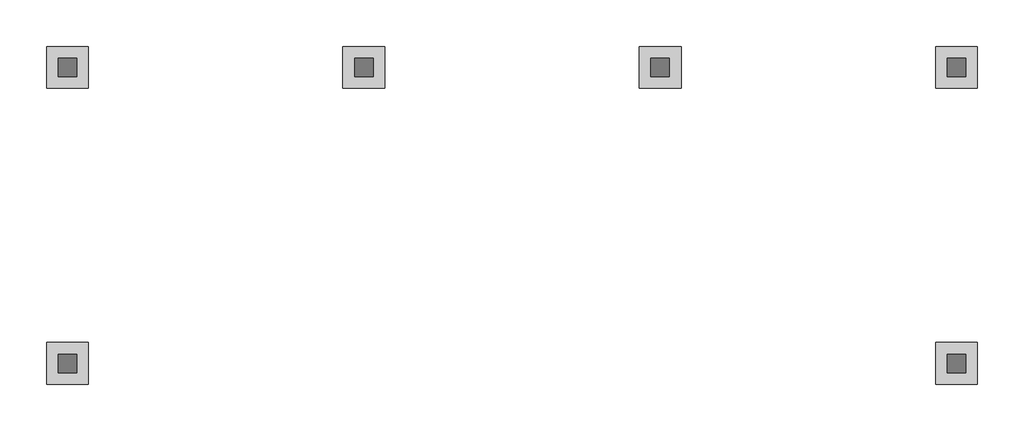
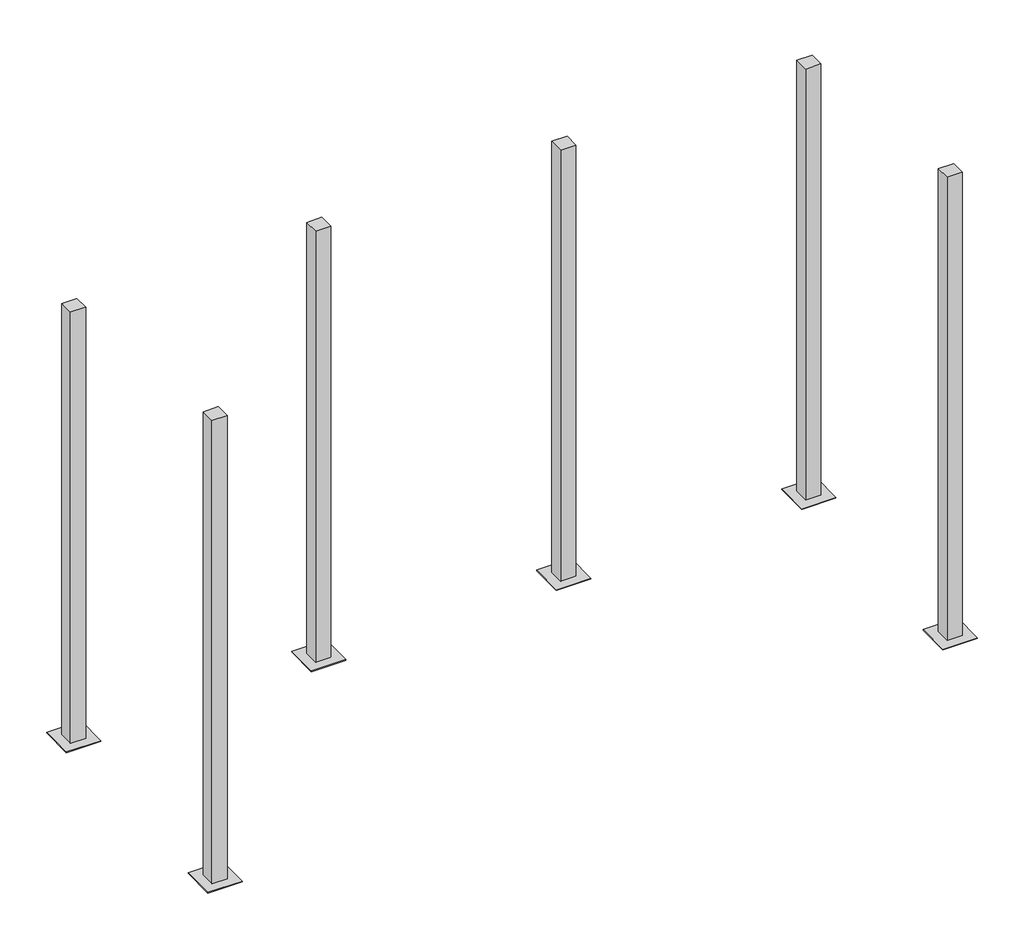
# One storey: 6 proxies.
"""IFC4 building model written with IfcOpenShell, lengths in millimetres."""

import ifcopenshell
import ifcopenshell.guid

model = None  # the IFC model being written
_history = None  # IfcOwnerHistory: only IFC2X3 demands one
_inside = {}  # id of a spatial element -> (the spatial element, [elements in it])
_under = {}  # id of a project, library or spatial element -> (it, [spatial elements below it])
_declared = {}  # id of a project -> (the project, [libraries it declares])
_typed = {}  # id of a type object -> (the type object, [elements of that type])
_made_of = {}  # id of a material, layer set ... -> (it, [elements and type objects made of it])


def new_model(schema):
    """Start an empty IFC model of exactly this schema.

    Asked for "IFC4X3", IfcOpenShell would pick the latest addendum, in which some entities
    have other attributes; the version numbers below select the first issue.
    IFC2X3 requires an IfcOwnerHistory on every rooted entity: one is made here for all.
    """
    global model, _history
    if schema == "IFC4X3":
        model = ifcopenshell.file(schema_version=(4, 3, 0, 0))
    else:
        model = ifcopenshell.file(schema=schema)
    _inside.clear()
    _under.clear()
    _declared.clear()
    _typed.clear()
    _made_of.clear()
    _history = None
    if model.schema == "IFC2X3":
        org = make("IfcOrganization", Name="unknown")
        user = make(
            "IfcPersonAndOrganization",
            ThePerson=make("IfcPerson", FamilyName="unknown"),
            TheOrganization=org,
        )
        app = make(
            "IfcApplication",
            ApplicationDeveloper=org,
            Version="unknown",
            ApplicationFullName="unknown",
            ApplicationIdentifier="unknown",
        )
        _history = make(
            "IfcOwnerHistory",
            OwningUser=user,
            OwningApplication=app,
            ChangeAction="ADDED",
            CreationDate=0,
        )
    return model


def make(cls, **values):
    """One entity of the class cls with the attributes given. An attribute that is None is left unset."""
    return model.create_entity(
        cls, **{name: value for name, value in values.items() if value is not None}
    )


def rooted(cls, **values):
    """An entity with a GlobalId (a new one), such as an element, a storey or a relation."""
    return make(cls, GlobalId=ifcopenshell.guid.new(), OwnerHistory=_history, **values)


def si_unit(unit_type, name, prefix=None):
    """IfcSIUnit, for example si_unit("LENGTHUNIT", "METRE", prefix="MILLI")."""
    return make("IfcSIUnit", UnitType=unit_type, Prefix=prefix, Name=name)


def assignment(units):
    """IfcUnitAssignment: the units of a project."""
    return None if units is None else make("IfcUnitAssignment", Units=units)


def point(xyz):
    """IfcCartesianPoint."""
    return None if xyz is None else make("IfcCartesianPoint", Coordinates=xyz)


def direction(xyz):
    """IfcDirection."""
    return None if xyz is None else make("IfcDirection", DirectionRatios=xyz)


def frame(location, z_axis=None, x_axis=None):
    """IfcAxis2Placement3D, a coordinate frame: its origin and axes. An axis left out is left unset."""
    return make(
        "IfcAxis2Placement3D",
        Location=point(location),
        Axis=direction(z_axis),
        RefDirection=direction(x_axis),
    )


def origin():
    """The frame at (0, 0, 0) with its axes left unset."""
    return frame((0.0, 0.0, 0.0))


def place(relative_to, where):
    """IfcLocalPlacement: puts the frame where relative to a parent placement (None: the world)."""
    return make(
        "IfcLocalPlacement", PlacementRelTo=relative_to, RelativePlacement=where
    )


def context(
    kind, dimensions, precision=None, world=None, true_north=None, identifier=None
):
    """IfcGeometricRepresentationContext, for example the 3D "Model" context."""
    return make(
        "IfcGeometricRepresentationContext",
        ContextIdentifier=identifier,
        ContextType=kind,
        CoordinateSpaceDimension=dimensions,
        Precision=precision,
        WorldCoordinateSystem=world,
        TrueNorth=true_north,
    )


def project(units=None, contexts=None):
    """IfcProject with its units and contexts."""
    return rooted(
        "IfcProject",
        Name="project",
        RepresentationContexts=contexts,
        UnitsInContext=assignment(units),
    )


def spatial(cls, under=None, at=None, **own):
    """A site, building, storey or space (cls), placed at a placement, below another one or the project."""
    s = rooted(cls, ObjectPlacement=at, **own)
    if under is not None:
        _under.setdefault(under.id(), (under, []))[1].append(s)
    return s


def polyline(points):
    """IfcPolyline through the points."""
    return make("IfcPolyline", Points=[point(p) for p in points])


def outline(outer, holes=None, kind="AREA"):
    """IfcArbitraryClosedProfileDef: a profile drawn as a closed curve; with holes, ...WithVoids."""
    if holes is None:
        return make("IfcArbitraryClosedProfileDef", ProfileType=kind, OuterCurve=outer)
    return make(
        "IfcArbitraryProfileDefWithVoids",
        ProfileType=kind,
        OuterCurve=outer,
        InnerCurves=holes,
    )


def extrude(swept, where, along, depth):
    """IfcExtrudedAreaSolid: the profile swept, set in the frame where, extruded along a direction by depth."""
    return make(
        "IfcExtrudedAreaSolid",
        SweptArea=swept,
        Position=where,
        ExtrudedDirection=direction(along),
        Depth=depth,
    )


def shape(context_of_items, identifier, shape_type, items):
    """IfcShapeRepresentation: the items that make up one representation, for example the "Body"."""
    return make(
        "IfcShapeRepresentation",
        ContextOfItems=context_of_items,
        RepresentationIdentifier=identifier,
        RepresentationType=shape_type,
        Items=items,
    )


def source(mapping_origin, context_of_items, identifier, shape_type, items):
    """IfcRepresentationMap: a shape defined once, which mapped items show again and again."""
    return make(
        "IfcRepresentationMap",
        MappingOrigin=mapping_origin,
        MappedRepresentation=shape(context_of_items, identifier, shape_type, items),
    )


def transform(
    local_origin,
    x_axis=None,
    y_axis=None,
    z_axis=None,
    scale=None,
    scale2=None,
    scale3=None,
    uniform=True,
):
    """IfcCartesianTransformationOperator3D, or its non-uniform kind. x_axis, y_axis, z_axis: its Axis1, 2, 3."""
    if uniform:
        return make(
            "IfcCartesianTransformationOperator3D",
            Axis1=direction(x_axis),
            Axis2=direction(y_axis),
            LocalOrigin=point(local_origin),
            Scale=scale,
            Axis3=direction(z_axis),
        )
    return make(
        "IfcCartesianTransformationOperator3DnonUniform",
        Axis1=direction(x_axis),
        Axis2=direction(y_axis),
        LocalOrigin=point(local_origin),
        Scale=scale,
        Axis3=direction(z_axis),
        Scale2=scale2,
        Scale3=scale3,
    )


def mapped(mapping_source, mapping_target):
    """IfcMappedItem: shows the shape of a source again, moved by a transform."""
    return make(
        "IfcMappedItem", MappingSource=mapping_source, MappingTarget=mapping_target
    )


def made_of(thing, what):
    """Note that an element or type object is made of a material, layer set ...; save() writes the relation."""
    if what is not None:
        _made_of.setdefault(what.id(), (what, []))[1].append(thing)
    return thing


def element(
    cls,
    number,
    at=None,
    inside=None,
    cuts=None,
    type_object=None,
    material=None,
    context=None,
    identifier="Body",
    shape_type=None,
    held_by="IfcProductDefinitionShape",
    body=None,
    shapes=None,
    **own,
):
    """One element of the class cls, such as IfcWall. Its Tag is "e" and its number.

    at: its placement. inside: the storey or other place that contains it. cuts: it is an
    opening in that element (IfcRelVoidsElement). A single representation is given by context,
    identifier, shape_type and body (its items); several are given by shapes. held_by: the class
    of the entity that holds the representations. save() writes the other relations.
    """
    e = rooted(cls, Tag="e%d" % number, ObjectPlacement=at, **own)
    if body is not None:
        shapes = [shape(context, identifier, shape_type, body)]
    if shapes is not None:
        e.Representation = make(held_by, Representations=shapes)
    if inside is not None:
        _inside.setdefault(inside.id(), (inside, []))[1].append(e)
    if cuts is not None:
        rooted(
            "IfcRelVoidsElement", RelatingBuildingElement=cuts, RelatedOpeningElement=e
        )
    if type_object is not None:
        _typed.setdefault(type_object.id(), (type_object, []))[1].append(e)
    return made_of(e, material)


def aggregate(whole, parts):
    """IfcRelAggregates: a whole, such as a stair, and the parts it consists of."""
    return rooted("IfcRelAggregates", RelatingObject=whole, RelatedObjects=parts)


def save(model, path):
    """Write the relations noted so far, then the file.

    IfcRelAggregates (storeys below a building ...), IfcRelContainedInSpatialStructure (elements
    in a storey), IfcRelDefinesByType, IfcRelAssociatesMaterial and IfcRelDeclares: one each for
    every whole, place, type object, material and project.
    """
    for whole, parts in _under.values():
        aggregate(whole, parts)
    for where, things in _inside.values():
        rooted(
            "IfcRelContainedInSpatialStructure",
            RelatedElements=things,
            RelatingStructure=where,
        )
    for kind, things in _typed.values():
        rooted("IfcRelDefinesByType", RelatedObjects=things, RelatingType=kind)
    for what, things in _made_of.values():
        rooted("IfcRelAssociatesMaterial", RelatedObjects=things, RelatingMaterial=what)
    for by, libraries in _declared.values():
        rooted("IfcRelDeclares", RelatingContext=by, RelatedDefinitions=libraries)
    model.write(path)


def origin_3b7e57de(model_context):
    return source(origin(), model_context, "Body", "SweptSolid", [
        extrude(outline(polyline([(40.0, 40.0), (40.0, -40.0), (-40.0, -40.0), (-40.0, 40.0), (40.0, 40.0)])), frame((0.0, 0.0, -200.0), z_axis=(0.0, 0.0, 1.0), x_axis=(1.0, 0.0, 0.0)), (0.0, 0.0, 1.0), 2382.0),
        extrude(outline(polyline([(90.0, -90.0), (-90.0, -90.0), (-90.0, 90.0), (90.0, 90.0), (90.0, -90.0)])), frame((0.0, 0.0, -204.0), z_axis=(0.0, 0.0, 1.0), x_axis=(1.0, 0.0, 0.0)), (0.0, 0.0, 1.0), 4.0),
    ])


def post_5e804c5f(model_context):
    return source(origin(), model_context, "Body", "SweptSolid", [
        extrude(outline(polyline([(40.0, 40.0), (40.0, -40.0), (-40.0, -40.0), (-40.0, 40.0), (40.0, 40.0)])), frame((0.0, 0.0, -200.0), z_axis=(0.0, 0.0, 1.0), x_axis=(1.0, 0.0, 0.0)), (0.0, 0.0, 1.0), 2560.0),
        extrude(outline(polyline([(90.0, -90.0), (-90.0, -90.0), (-90.0, 90.0), (90.0, 90.0), (90.0, -90.0)])), frame((0.0, 0.0, -204.0), z_axis=(0.0, 0.0, 1.0), x_axis=(1.0, 0.0, 0.0)), (0.0, 0.0, 1.0), 4.0),
    ])


model = new_model("IFC4")

# Units and contexts
model_context = context("Model", 3, world=origin())
ifc_project = project(units=[si_unit("LENGTHUNIT", "METRE", prefix="MILLI")], contexts=[model_context])

# Site, building, storey
site = spatial("IfcSite", under=ifc_project)
building = spatial("IfcBuilding", under=site)
storey = spatial("IfcBuildingStorey", under=building, Name="T.O. Fnd. Wall", Elevation=-300.0)

# Proxies
placement = place(None, origin())
ifc_origin_shape = origin_3b7e57de(model_context)
element("IfcBuildingElementProxy", 1, Name="Post_Akva : Origin", ObjectType="Post_Akva : Origin", at=placement, inside=storey, context=model_context, shape_type="MappedRepresentation", body=[
    mapped(ifc_origin_shape, transform((-11331.628021, 699.5851863, 0.0), x_axis=(1.0, 0.0, 0.0), y_axis=(0.0, 1.0, 0.0), z_axis=(0.0, 0.0, 1.0))),
])
element("IfcBuildingElementProxy", 2, Name="Post_Akva : Origin", ObjectType="Post_Akva : Origin", at=placement, inside=storey, context=model_context, shape_type="MappedRepresentation", body=[
    mapped(ifc_origin_shape, transform((-10051.6280191, 699.5851863, 0.0), x_axis=(1.0, 0.0, 0.0), y_axis=(0.0, 1.0, 0.0), z_axis=(0.0, 0.0, 1.0))),
])
post_shape = post_5e804c5f(model_context)
element("IfcBuildingElementProxy", 3, Name="Post_Akva : Post", ObjectType="Post_Akva : Post", at=placement, inside=storey, context=model_context, shape_type="MappedRepresentation", body=[
    mapped(post_shape, transform((-12611.628023, -580.4148156, 0.0), x_axis=(1.0, 0.0, 0.0), y_axis=(0.0, 1.0, 0.0), z_axis=(0.0, 0.0, 1.0))),
])
element("IfcBuildingElementProxy", 4, Name="Post_Akva : Post", ObjectType="Post_Akva : Post", at=placement, inside=storey, context=model_context, shape_type="MappedRepresentation", body=[
    mapped(post_shape, transform((-8771.6280171, -580.4148156, 0.0), x_axis=(1.0, 0.0, 0.0), y_axis=(0.0, 1.0, 0.0), z_axis=(0.0, 0.0, 1.0))),
])
element("IfcBuildingElementProxy", 5, Name="Post_Akva : Post", ObjectType="Post_Akva : Post", at=placement, inside=storey, context=model_context, shape_type="MappedRepresentation", body=[
    mapped(ifc_origin_shape, transform((-12611.628023, 699.5851863, 0.0), x_axis=(1.0, 0.0, 0.0), y_axis=(0.0, 1.0, 0.0), z_axis=(0.0, 0.0, 1.0))),
])
element("IfcBuildingElementProxy", 6, Name="Post_Akva : Post", ObjectType="Post_Akva : Post", at=placement, inside=storey, context=model_context, shape_type="MappedRepresentation", body=[
    mapped(ifc_origin_shape, transform((-8771.6280171, 699.5851863, 0.0), x_axis=(1.0, 0.0, 0.0), y_axis=(0.0, 1.0, 0.0), z_axis=(0.0, 0.0, 1.0))),
])

save(model, "model.ifc")
